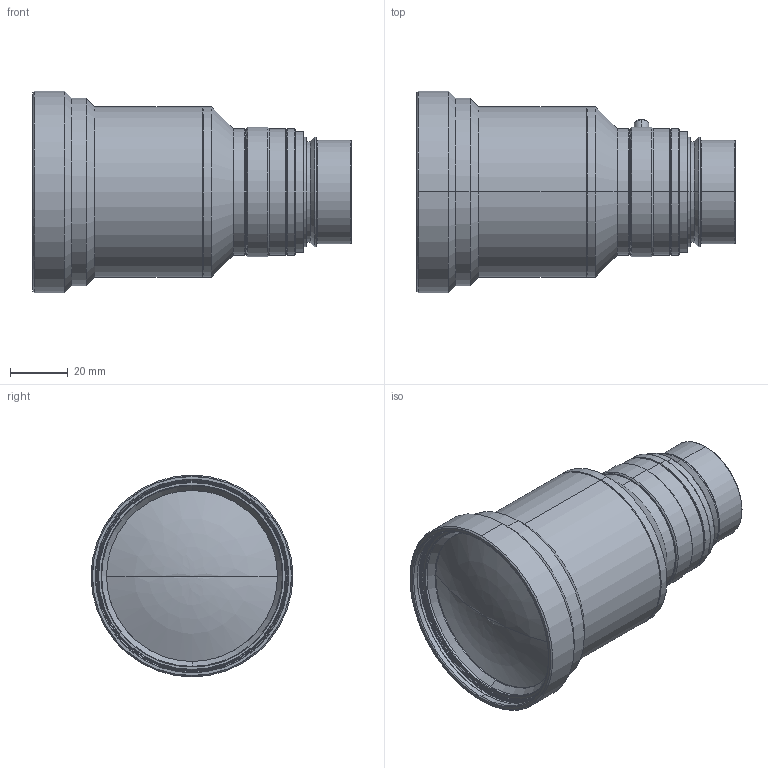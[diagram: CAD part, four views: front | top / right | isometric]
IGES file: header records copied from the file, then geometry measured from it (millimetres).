
Start section: SolidWorks IGES file using analytic representation for surfaces
Global section: file name: \\192.168.200.11\Development\03 ラインセンサーレンズ\01 VS-L series\060 VS-L6035_V\3D\VS-L6035_V.IGS; native system: SolidWorks 2014; preprocessor: SolidWorks 2014; author: gijutu-1; date: 140522.181955; units: millimetre
Bounding box: 110.49 x 70 x 70 mm (x, y, z)
Surface area: 27388.4 mm2 (no closed solid volume)
Topology: 0 solids, 0 shells, 134 faces, 2398 edges, 2396 vertices
Faces by surface type: revolution 118, bspline 16
